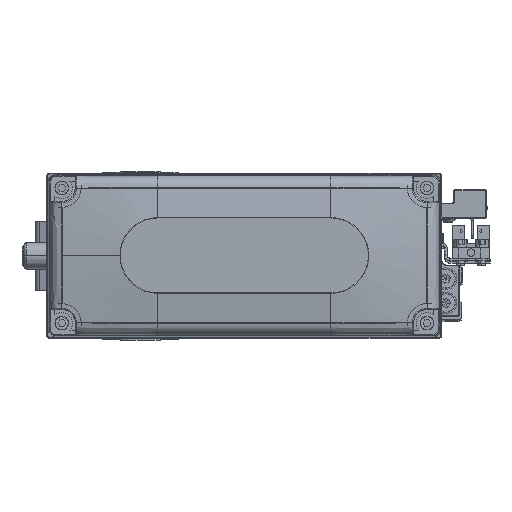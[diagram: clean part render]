
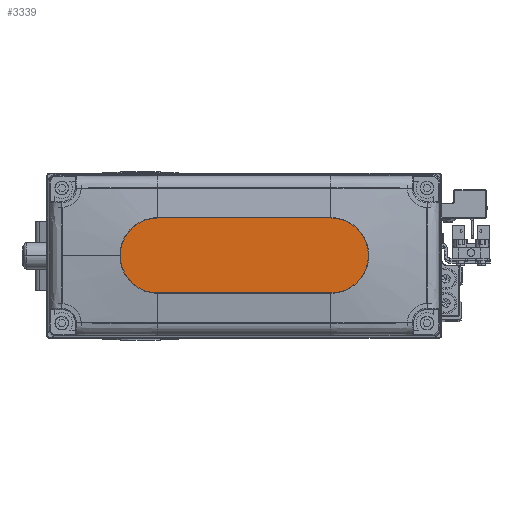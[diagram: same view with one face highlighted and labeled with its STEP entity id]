
A CAD part, top view. The second image highlights one B-rep face of the part: STEP entity #3339.
In plain terms, the highlighted planar face has unit normal (0, 0, 1).
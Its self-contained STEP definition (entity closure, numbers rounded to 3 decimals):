
#50 = EDGE_CURVE ( 'NONE', #32344, #2581, #13829, .T. ) ;
#1171 = VERTEX_POINT ( 'NONE', #16373 ) ;
#1238 = VECTOR ( 'NONE', #6370, 1000. ) ;
#2581 = VERTEX_POINT ( 'NONE', #17952 ) ;
#2895 = FACE_OUTER_BOUND ( 'NONE', #35711, .T. ) ;
#3339 = ADVANCED_FACE ( 'NONE', ( #2895 ), #16828, .T. ) ;
#3782 = CARTESIAN_POINT ( 'NONE',  ( -32., 0., 35. ) ) ;
#6370 = DIRECTION ( 'NONE',  ( 1., 0., 0. ) ) ;
#6555 = CARTESIAN_POINT ( 'NONE',  ( 32., 0., 35. ) ) ;
#8825 = VECTOR ( 'NONE', #41704, 1000. ) ;
#9434 = CIRCLE ( 'NONE', #34931, 14. ) ;
#13044 = AXIS2_PLACEMENT_3D ( 'NONE', #6555, #20490, #34413 ) ;
#13113 = EDGE_CURVE ( 'NONE', #27204, #1171, #23723, .T. ) ;
#13138 = CARTESIAN_POINT ( 'NONE',  ( 32., 0., 35. ) ) ;
#13387 = DIRECTION ( 'NONE',  ( 1., 0., 0. ) ) ;
#13767 = ORIENTED_EDGE ( 'NONE', *, *, #32588, .T. ) ;
#13829 = LINE ( 'NONE', #27766, #8825 ) ;
#15254 = CARTESIAN_POINT ( 'NONE',  ( 32., 14., 35. ) ) ;
#16373 = CARTESIAN_POINT ( 'NONE',  ( 32., -14., 35. ) ) ;
#16828 = PLANE ( 'NONE',  #26579 ) ;
#17294 = EDGE_CURVE ( 'NONE', #2581, #27204, #9434, .T. ) ;
#17300 = ORIENTED_EDGE ( 'NONE', *, *, #17294, .T. ) ;
#17717 = DIRECTION ( 'NONE',  ( 0., 0., 1. ) ) ;
#17952 = CARTESIAN_POINT ( 'NONE',  ( -32., 14., 35. ) ) ;
#19453 = CIRCLE ( 'NONE', #25257, 14. ) ;
#20236 = VERTEX_POINT ( 'NONE', #37008 ) ;
#20490 = DIRECTION ( 'NONE',  ( 0., 0., 1. ) ) ;
#21558 = ORIENTED_EDGE ( 'NONE', *, *, #50, .T. ) ;
#23723 = LINE ( 'NONE', #37659, #1238 ) ;
#25156 = ORIENTED_EDGE ( 'NONE', *, *, #37691, .T. ) ;
#25257 = AXIS2_PLACEMENT_3D ( 'NONE', #13138, #27071, #41015 ) ;
#25650 = ORIENTED_EDGE ( 'NONE', *, *, #13113, .T. ) ;
#26579 = AXIS2_PLACEMENT_3D ( 'NONE', #30752, #44689, #13387 ) ;
#27071 = DIRECTION ( 'NONE',  ( 0., 0., 1. ) ) ;
#27204 = VERTEX_POINT ( 'NONE', #30699 ) ;
#27766 = CARTESIAN_POINT ( 'NONE',  ( -32., 14., 35. ) ) ;
#30699 = CARTESIAN_POINT ( 'NONE',  ( -32., -14., 35. ) ) ;
#30752 = CARTESIAN_POINT ( 'NONE',  ( 0., 0., 35. ) ) ;
#31633 = DIRECTION ( 'NONE',  ( 1., 0., 0. ) ) ;
#32344 = VERTEX_POINT ( 'NONE', #15254 ) ;
#32588 = EDGE_CURVE ( 'NONE', #20236, #32344, #32734, .T. ) ;
#32734 = CIRCLE ( 'NONE', #13044, 14. ) ;
#34413 = DIRECTION ( 'NONE',  ( 1., 0., 0. ) ) ;
#34931 = AXIS2_PLACEMENT_3D ( 'NONE', #3782, #17717, #31633 ) ;
#35711 = EDGE_LOOP ( 'NONE', ( #21558, #17300, #25650, #25156, #13767 ) ) ;
#37008 = CARTESIAN_POINT ( 'NONE',  ( 46., 0., 35. ) ) ;
#37659 = CARTESIAN_POINT ( 'NONE',  ( -32., -14., 35. ) ) ;
#37691 = EDGE_CURVE ( 'NONE', #1171, #20236, #19453, .T. ) ;
#41015 = DIRECTION ( 'NONE',  ( 1., 0., 0. ) ) ;
#41704 = DIRECTION ( 'NONE',  ( -1., 0., 0. ) ) ;
#44689 = DIRECTION ( 'NONE',  ( 0., 0., 1. ) ) ;
